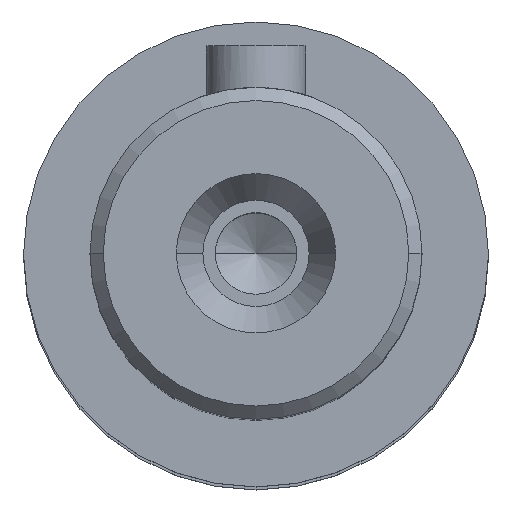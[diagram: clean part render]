
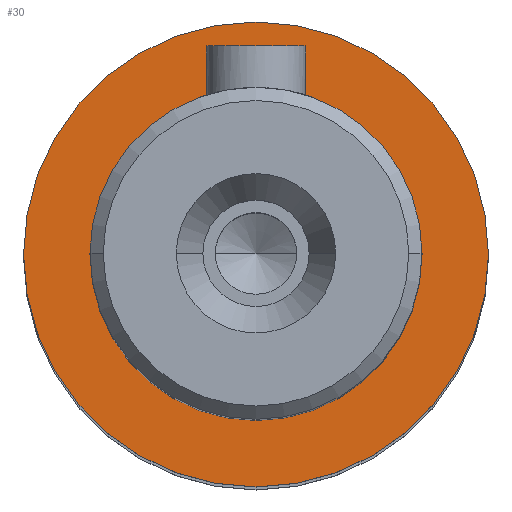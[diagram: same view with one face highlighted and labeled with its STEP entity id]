
A CAD part, top view. The second image highlights one B-rep face of the part: STEP entity #30.
In plain terms, the highlighted planar face has unit normal (0, 0, 1) as drawn and (1, 0, 0) by its records, which use the part's own axes.
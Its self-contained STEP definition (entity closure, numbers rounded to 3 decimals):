
#30=ADVANCED_FACE('',(#88,#72),#723,.T.);
#72=FACE_BOUND('',#143,.T.);
#88=FACE_OUTER_BOUND('',#142,.T.);
#142=EDGE_LOOP('',(#234,#235));
#143=EDGE_LOOP('',(#236,#237));
#234=ORIENTED_EDGE('',*,*,#459,.F.);
#235=ORIENTED_EDGE('',*,*,#400,.F.);
#236=ORIENTED_EDGE('',*,*,#462,.F.);
#237=ORIENTED_EDGE('',*,*,#407,.F.);
#400=EDGE_CURVE('',#640,#676,#538,.T.);
#407=EDGE_CURVE('',#641,#677,#540,.T.);
#459=EDGE_CURVE('',#676,#640,#565,.T.);
#462=EDGE_CURVE('',#677,#641,#567,.T.);
#538=TRIMMED_CURVE($,#586,(#1422),(#1423),.T.,.CARTESIAN.);
#540=TRIMMED_CURVE($,#588,(#1448),(#1449),.T.,.CARTESIAN.);
#565=TRIMMED_CURVE($,#613,(#1577),(#1578),.T.,.CARTESIAN.);
#567=TRIMMED_CURVE($,#615,(#1585),(#1586),.T.,.CARTESIAN.);
#586=CIRCLE('',#957,14.);
#588=CIRCLE('',#959,10.);
#613=CIRCLE('',#984,14.);
#615=CIRCLE('',#986,10.);
#640=VERTEX_POINT('',#1311);
#641=VERTEX_POINT('',#1312);
#676=VERTEX_POINT('',#1347);
#677=VERTEX_POINT('',#1348);
#723=PLANE('',#919);
#919=AXIS2_PLACEMENT_3D('',#1167,#1009,$);
#957=AXIS2_PLACEMENT_3D($,#1421,#1059,#1060);
#959=AXIS2_PLACEMENT_3D($,#1447,#1063,#1064);
#984=AXIS2_PLACEMENT_3D($,#1576,#1113,#1114);
#986=AXIS2_PLACEMENT_3D($,#1584,#1117,#1118);
#1009=DIRECTION('',(1.,0.,0.));
#1059=DIRECTION('',(-1.,0.,0.));
#1060=DIRECTION('',(0.,0.,-1.));
#1063=DIRECTION('',(1.,0.,0.));
#1064=DIRECTION('',(0.,0.,-1.));
#1113=DIRECTION('',(-1.,0.,0.));
#1114=DIRECTION('',(0.,0.,1.));
#1117=DIRECTION('',(1.,0.,0.));
#1118=DIRECTION('',(0.,0.,1.));
#1167=CARTESIAN_POINT('',(53.5,-16.86,-16.86));
#1311=CARTESIAN_POINT('',(53.5,0.,-14.));
#1312=CARTESIAN_POINT('',(53.5,0.,-10.));
#1347=CARTESIAN_POINT('',(53.5,0.,14.));
#1348=CARTESIAN_POINT('',(53.5,0.,10.));
#1421=CARTESIAN_POINT('',(53.5,0.,0.));
#1422=CARTESIAN_POINT('',(53.5,0.,-14.));
#1423=CARTESIAN_POINT('',(53.5,0.,14.));
#1447=CARTESIAN_POINT('',(53.5,0.,0.));
#1448=CARTESIAN_POINT('',(53.5,0.,-10.));
#1449=CARTESIAN_POINT('',(53.5,0.,10.));
#1576=CARTESIAN_POINT('',(53.5,0.,0.));
#1577=CARTESIAN_POINT('',(53.5,0.,14.));
#1578=CARTESIAN_POINT('',(53.5,0.,-14.));
#1584=CARTESIAN_POINT('',(53.5,0.,0.));
#1585=CARTESIAN_POINT('',(53.5,0.,10.));
#1586=CARTESIAN_POINT('',(53.5,0.,-10.));
